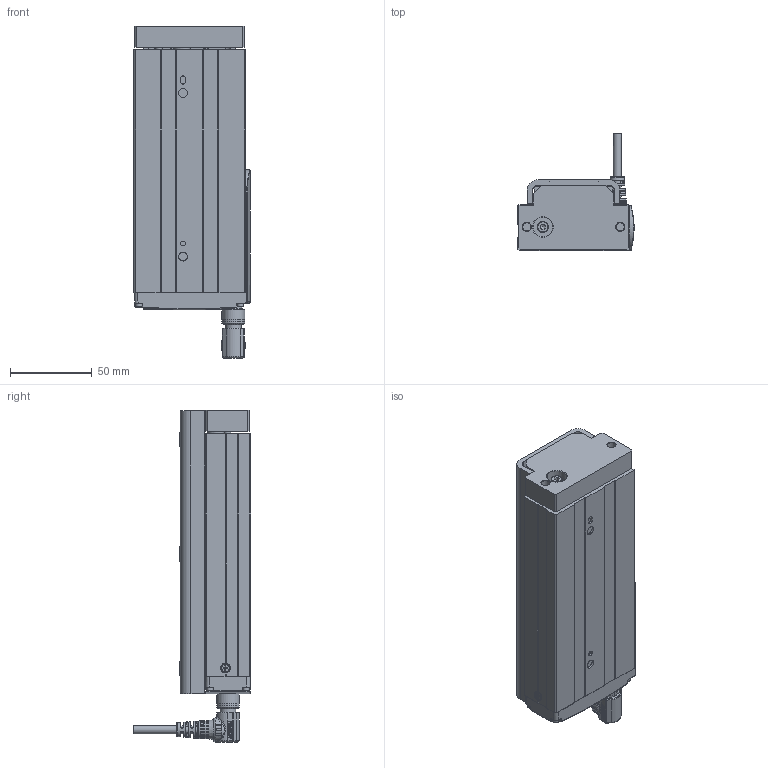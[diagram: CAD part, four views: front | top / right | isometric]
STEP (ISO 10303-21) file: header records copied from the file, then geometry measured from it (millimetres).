
FILE_DESCRIPTION(/* description */ ('STEP AP203'),/* implementation_level */ '2;1');
FILE_NAME(/* name */ 'D:\暫\2025.02.06 CSG 3D\CSG25\CSG25-S100-WW.stp',/* time_stamp */ '2025-02-08T10:07:23+08:00',/* author */ ('T10033'),/* organization */ (''),/* preprocessor_version */ 'ST-DEVELOPER v18.1',/* originating_system */ 'Autodesk Inventor 2020',/* authorisation */ '');
FILE_SCHEMA (('CONFIG_CONTROL_DESIGN'));
Products named in the file (17): CSG25-50行程-180接頭-完整組合; countersunk flat head cross recess screw_iso_ISO 7046-1 - M2.5 x 4 - 
Z - 4N; ©T©wªO-·¥­­¾×ª
O4-M2¤ú; socket head cap screw_iso_ISO 4762 M2.5 x 6 - 6N; socket head cap screw_iso_ISO 4762 M2.5 x 8 - 8N; ¶ì½¦ºÝ»-L¼Ë¦¡
(TOYO); socket head cap screw_iso_ISO 4762 M2 x 12 - 12N; M12 -14PIN  ªOºÝ-²Ä¤@ºØ
³W®æ; CSG25-50¥»Åé3ª©-ªo¤Õ
½Õ¾ã¨¤«×; CSG25-Carriage-newtype; Solid1-2; M12-14PIN 線端90度接頭-05中繼線; socket head cap screw_iso_ISO 4762 M2.5 x 5 - 5N; 12003-000221-­×§ï; 22024-000496; CNS 3932 - M 4 x 0.7 x 12; CNS 4558 - M5 x 0.8 x 12
Assembly tree (28 placements, depth 2):
  CSG25-50行程-180接頭-完整組合
    socket head cap screw_iso_ISO 4762 M2.5 x 8 - 8N  x8
    countersunk flat head cross recess screw_iso_ISO 7046-1 - M2.5 x 4 - 
Z - 4N
    ©T©wªO-·¥­­¾×ª
O4-M2¤ú
    socket head cap screw_iso_ISO 4762 M2.5 x 6 - 6N  x2
    ¶ì½¦ºÝ»-L¼Ë¦¡
(TOYO)
    socket head cap screw_iso_ISO 4762 M2 x 12 - 12N  x4
    M12 -14PIN  ªOºÝ-²Ä¤@ºØ
³W®æ
    CSG25-50¥»Åé3ª©-ªo¤Õ
½Õ¾ã¨¤«×
    CSG25-Carriage-newtype
    Solid1-2
    M12-14PIN 線端90度接頭-05中繼線
    socket head cap screw_iso_ISO 4762 M2.5 x 5 - 5N
    12003-000221-­×§ï
    22024-000496
    CNS 3932 - M 4 x 0.7 x 12
    CNS 4558 - M5 x 0.8 x 12  x2
Bounding box: 71 x 71.97 x 203 mm (x, y, z)
Volume: 404935 mm3; surface area: 98915.5 mm2
Topology: 42 solids, 51 shells, 2978 faces, 8190 edges, 5439 vertices
Faces by surface type: plane 1429, bspline 647, cylinder 492, cone 282, torus 124, sphere 4
Full cylindrical faces by diameter (mm): 0.6 x14, 0.65 x14, 1 x14, 1.6 x4, 2 x4, 2.05 x3, 2.5 x12, 2.9 x2, 3 x3, 3.8 x4, 4 x1, 4.134 x8, 4.5 x11, 4.7 x1, 5 x6, 5.3 x2, 5.4 x4, 5.5 x4, 6 x3, 7 x1, 8 x1, 8.9 x1, 9 x12, 9.5 x2, 9.6 x1, 10 x6, 10.4 x2, 10.5 x2, 10.9 x1, 11 x3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
Entity records: 115035 total; most frequent: CARTESIAN_POINT 44506, ORIENTED_EDGE 15100, DIRECTION 13226, EDGE_CURVE 7568, VERTEX_POINT 5052, AXIS2_PLACEMENT_3D 4617, LINE 3992, VECTOR 3992
